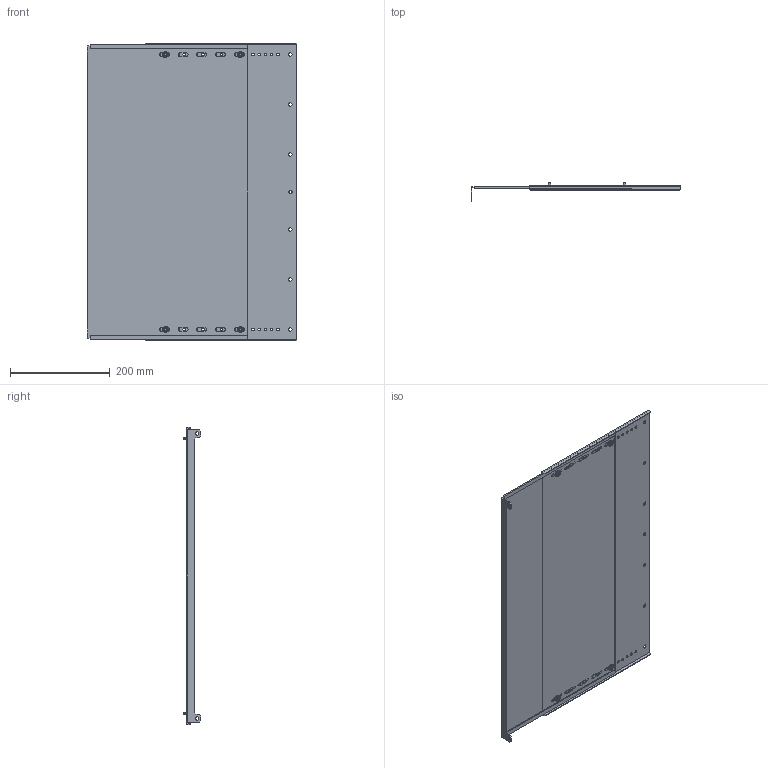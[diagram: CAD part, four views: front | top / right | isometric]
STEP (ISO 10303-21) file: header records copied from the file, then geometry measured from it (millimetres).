
FILE_DESCRIPTION (( 'STEP AP214' ), '1' );
FILE_NAME ('FO-00-SWVB-060-040 Ïåðåãîðîäêà ñåêöèîíèðîâàíèÿ âåðòèêàëüíàÿ äëÿ âåðòèêàëüíîãî øèííîãî îòñåêà 600õ400 ìì â øêàô ãëóáèíîé 800 ìì.STEP', '2025-08-08T08:02:31', ( '' ), ( '' ), 'SwSTEP 2.0', 'SolidWorks 2023', '' );
FILE_SCHEMA (( 'AUTOMOTIVE_DESIGN' ));
Length unit declared in the file: millimetre
Products named in the file (4): Болты М5х600; FO-00-SWVB-060-040 Перегородка секционирования вертикальная для вертикального шинного отсека 600х400 мм в шкаф глубиной 800 мм; Перегородка секционирования 600х400; Перегородка секционирования ап  600х400
Assembly tree (4 placements, depth 2):
  FO-00-SWVB-060-040 Перегородка секционирования вертикальная для вертикального шинного отсека 600х400 мм в шкаф глубиной 800 мм
    Перегородка секционирования 600х400
    Перегородка секционирования ап  600х400
    Болты М5х600  x2
Bounding box: 419.75 x 35.7 x 594.5 mm (x, y, z)
Volume: 580741.4 mm3; surface area: 771358.7 mm2
Topology: 6 solids, 6 shells, 306 faces, 834 edges, 548 vertices
Faces by surface type: cylinder 194, plane 88, torus 16, cone 8
Entity records: 8510 total; most frequent: DIRECTION 1538, CARTESIAN_POINT 1411, ORIENTED_EDGE 1392, EDGE_CURVE 696, AXIS2_PLACEMENT_3D 587, VERTEX_POINT 460, EDGE_LOOP 370, LINE 364
